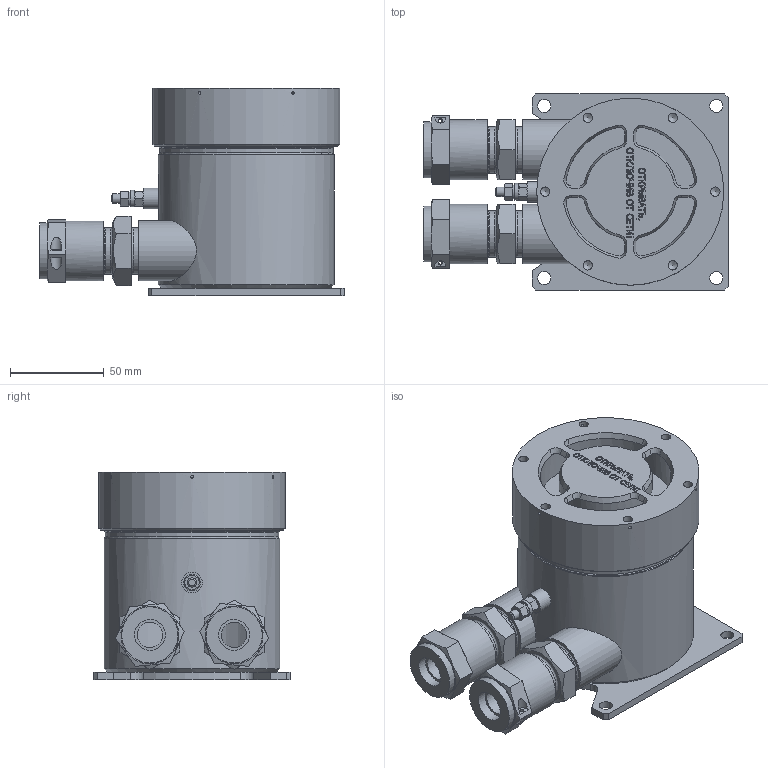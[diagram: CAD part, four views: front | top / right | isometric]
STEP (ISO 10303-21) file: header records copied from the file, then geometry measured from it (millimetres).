
FILE_DESCRIPTION(('STEP AP242'), '1');
FILE_NAME('908.3203.00.000捘 俜謷飶樥罻', '', ('UNSPECIFIED'), ('UNSPECIFIED'), 'ASCON STEP Converter 1.6', 'ASCON Math Kernel', '');
FILE_SCHEMA(('AP242_MANAGED_MODEL_BASED_3D_ENGINEERING_MIM_LF { 1 0 10303 442 1 1 4 }'));
Length unit declared in the file: millimetre
Bounding box: 163 x 105 x 111 mm (x, y, z)
Volume: 397629.3 mm3; surface area: 144134.3 mm2
Topology: 9 solids, 9 shells, 723 faces, 1832 edges, 1199 vertices
Faces by surface type: plane 384, bspline 143, cylinder 90, cone 84, torus 22
Full cylindrical faces by diameter (mm): 1.5 x6, 2 x2, 3.242 x3, 4.134 x3, 5 x9, 5.3 x3, 7 x4, 8 x1, 9 x4, 11 x1, 12.5 x1, 13.6 x2, 14 x2, 16.5 x4, 19 x1, 23 x1, 24.5 x2, 24.8 x4, 25.376 x2, 27 x2, 29 x1, 30 x2, 32 x4, 32.5 x2, 33 x1, 46.2 x1, 50 x1, 55 x1, 60 x1, 70 x1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
Entity records: 34170 total; most frequent: CARTESIAN_POINT 12492, ORIENTED_EDGE 3296, DIRECTION 2748, EDGE_CURVE 1648, VERTEX_POINT 1182, EDGE_LOOP 1010, AXIS2_PLACEMENT_3D 922, LINE 904
